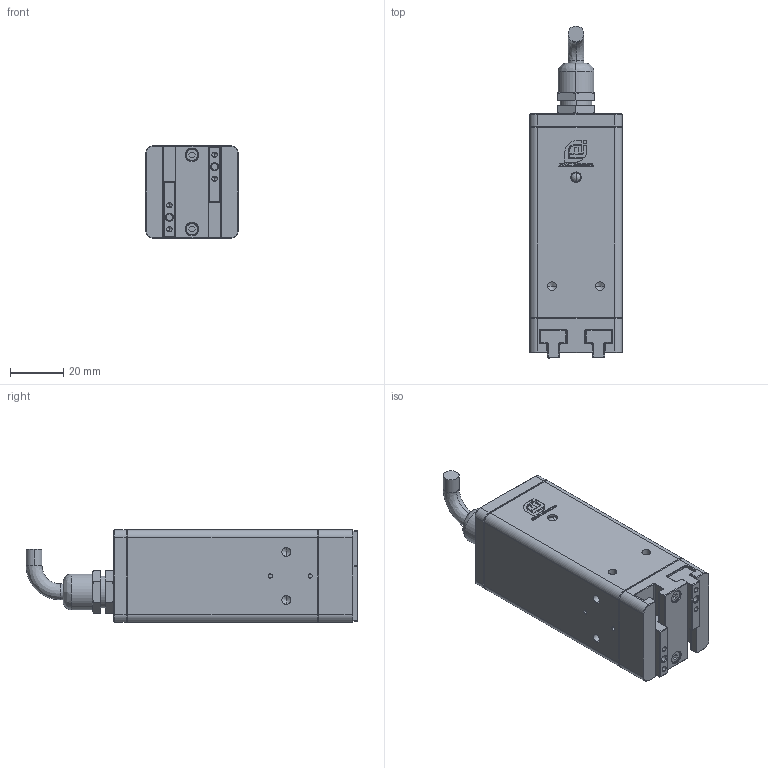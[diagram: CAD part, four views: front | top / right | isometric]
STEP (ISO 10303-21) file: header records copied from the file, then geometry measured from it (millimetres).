
FILE_DESCRIPTION (( 'STEP AP214' ), '1' );
FILE_NAME ('EPG26-015-1L#-C0024-P40-A##.STEP', '2021-12-24T03:31:02', ( 'User' ), ( 'China' ), 'SwSTEP 2.0', 'SolidWorks 2016', '' );
FILE_SCHEMA (( 'AUTOMOTIVE_DESIGN' ));
Length unit declared in the file: millimetre
Products named in the file (2): EPG26-015-1L#-C0024-P40-A##
Bounding box: 35 x 125 x 35 mm (x, y, z)
Volume: 107068.3 mm3; surface area: 27617.3 mm2
Topology: 13 solids, 13 shells, 906 faces, 2157 edges, 1309 vertices
Faces by surface type: plane 436, cone 162, cylinder 162, bspline 146
Entity records: 32299 total; most frequent: CARTESIAN_POINT 7210, ORIENTED_EDGE 4222, DIRECTION 3811, EDGE_CURVE 2111, VECTOR 1315, LINE 1315, VERTEX_POINT 1309, AXIS2_PLACEMENT_3D 1248
